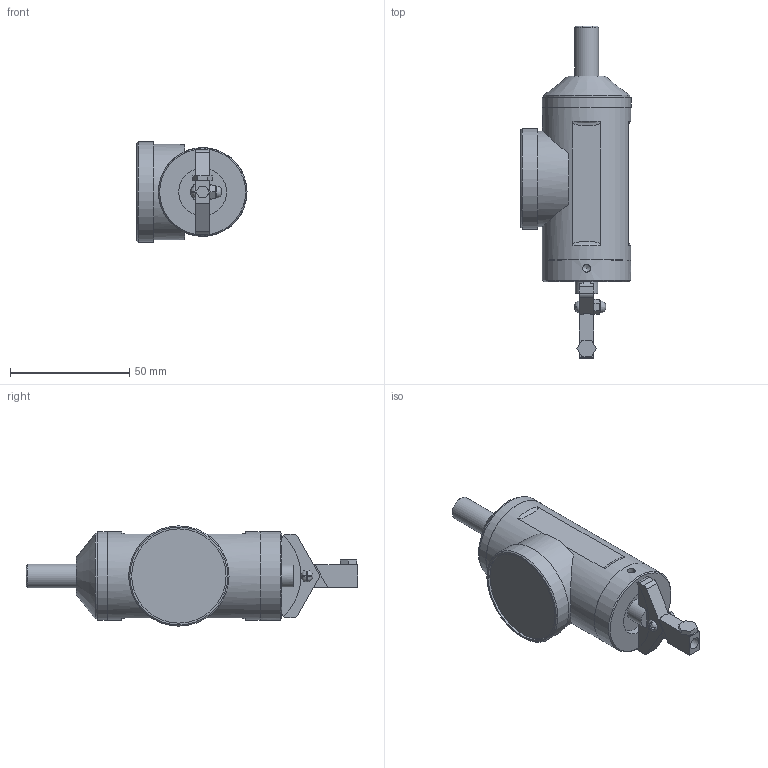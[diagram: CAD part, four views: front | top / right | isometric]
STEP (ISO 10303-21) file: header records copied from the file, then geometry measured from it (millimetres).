
FILE_DESCRIPTION(/* description */ (''),/* implementation_level */ '2;1');
FILE_NAME(/* name */ '',/* time_stamp */ '2025-05-20T10:08:16+03:00',/* author */ ('User'),/* organization */ (''),/* preprocessor_version */ 'ST-DEVELOPER v19.2',/* originating_system */ 'Autodesk Inventor 2024',/* authorisation */ '');
FILE_SCHEMA (('AUTOMOTIVE_DESIGN { 1 0 10303 214 3 1 1 }'));
Length unit declared in the file: millimetre
Products named in the file (1): Центроискатель 
индикаторный
Bounding box: 46.1 x 139 x 42 mm (x, y, z)
Volume: 105494.4 mm3; surface area: 18096.9 mm2
Topology: 1 solids, 1 shells, 113 faces, 298 edges, 200 vertices
Faces by surface type: plane 74, cylinder 24, bspline 8, cone 7
Full cylindrical faces by diameter (mm): 3.242 x3, 5 x2, 9.5 x1, 10 x1, 20 x1, 27 x1, 36 x1, 37 x2, 37.2 x1, 39.5 x1, 40 x1, 42 x1
Entity records: 4596 total; most frequent: CARTESIAN_POINT 1691, ORIENTED_EDGE 590, DIRECTION 543, EDGE_CURVE 295, VERTEX_POINT 200, AXIS2_PLACEMENT_3D 186, LINE 171, VECTOR 171
